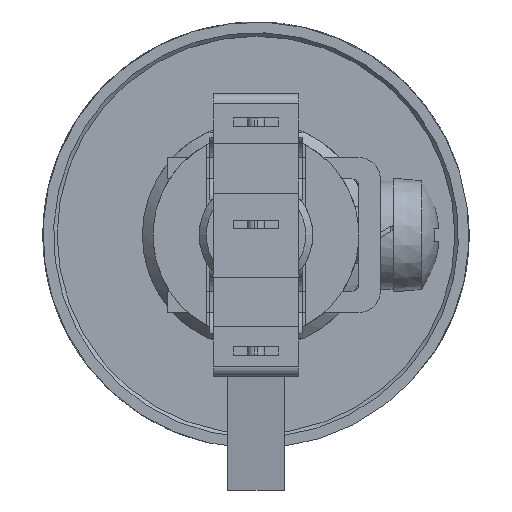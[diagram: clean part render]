
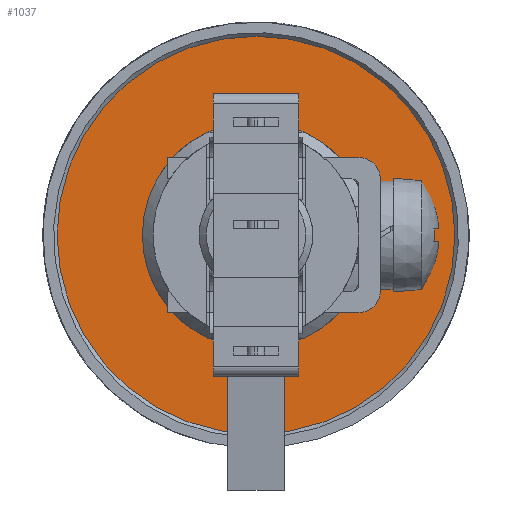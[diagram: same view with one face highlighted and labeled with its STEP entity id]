
A CAD part, front view. The second image highlights one B-rep face of the part: STEP entity #1037.
In plain terms, the highlighted planar face has unit normal (0, -1, 0).
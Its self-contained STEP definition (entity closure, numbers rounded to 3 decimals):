
#75=CARTESIAN_POINT('',(-14.,-13.558,0.0));
#76=VERTEX_POINT('',#75);
#77=CARTESIAN_POINT('',(0.0,-13.558,0.0));
#78=DIRECTION('',(0.0,1.0,0.0));
#79=DIRECTION('',(-1.0,0.0,0.0));
#80=AXIS2_PLACEMENT_3D('',#77,#78,#79);
#81=CIRCLE('',#80,14.);
#82=EDGE_CURVE('',#76,#76,#81,.T.);
#1011=CARTESIAN_POINT('',(-7.25,-13.558,0.0));
#1012=VERTEX_POINT('',#1011);
#1013=CARTESIAN_POINT('',(0.0,-13.558,0.0));
#1014=DIRECTION('',(0.0,1.0,0.0));
#1015=DIRECTION('',(-1.0,0.0,0.0));
#1016=AXIS2_PLACEMENT_3D('',#1013,#1014,#1015);
#1017=CIRCLE('',#1016,7.25);
#1018=EDGE_CURVE('',#1012,#1012,#1017,.T.);
#1026=CARTESIAN_POINT('',(-10.625,-13.558,0.0));
#1027=DIRECTION('',(0.0,-1.0,0.0));
#1028=DIRECTION('',(0.0,0.0,-1.0));
#1029=AXIS2_PLACEMENT_3D('',#1026,#1027,#1028);
#1030=PLANE('',#1029);
#1031=ORIENTED_EDGE('',*,*,#82,.F.);
#1032=EDGE_LOOP('',(#1031));
#1033=FACE_OUTER_BOUND('',#1032,.T.);
#1034=ORIENTED_EDGE('',*,*,#1018,.T.);
#1035=EDGE_LOOP('',(#1034));
#1036=FACE_BOUND('',#1035,.T.);
#1037=ADVANCED_FACE('',(#1033,#1036),#1030,.T.);
